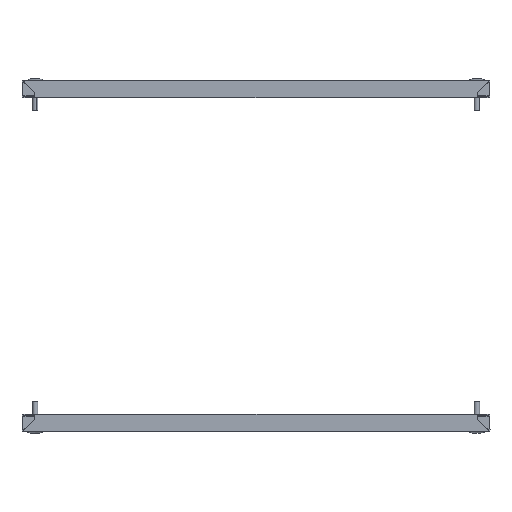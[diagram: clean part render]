
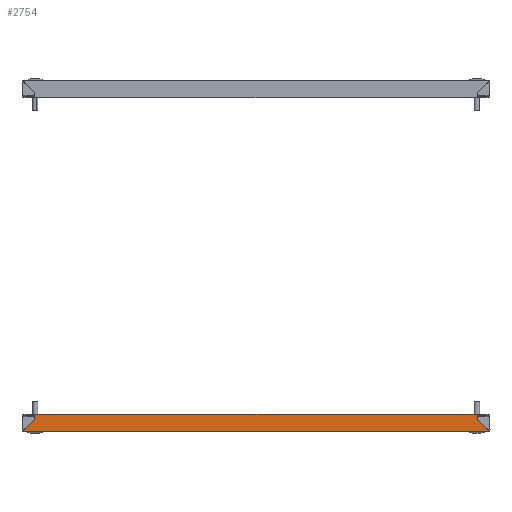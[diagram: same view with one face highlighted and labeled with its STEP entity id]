
A CAD part, front view. The second image highlights one B-rep face of the part: STEP entity #2754.
In plain terms, the highlighted planar face has unit normal (0, -1, 0).
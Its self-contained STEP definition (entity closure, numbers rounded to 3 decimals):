
#30 = CARTESIAN_POINT ( 'NONE',  ( 247.121, -50., -0.099 ) ) ;
#52 = ORIENTED_EDGE ( 'NONE', *, *, #4948, .T. ) ;
#92 = ORIENTED_EDGE ( 'NONE', *, *, #1702, .T. ) ;
#131 = CARTESIAN_POINT ( 'NONE',  ( 247.223, -50., -1.5 ) ) ;
#340 = CARTESIAN_POINT ( 'NONE',  ( -247.223, -50., -1.5 ) ) ;
#376 = DIRECTION ( 'NONE',  ( 0., 0., 1. ) ) ;
#724 = CARTESIAN_POINT ( 'NONE',  ( -247.204, -50., -1.149 ) ) ;
#1027 = ORIENTED_EDGE ( 'NONE', *, *, #7142, .T. ) ;
#1066 = DIRECTION ( 'NONE',  ( 0.707, 0., -0.707 ) ) ;
#1090 = LINE ( 'NONE', #1135, #1475 ) ;
#1135 = CARTESIAN_POINT ( 'NONE',  ( 236., -50., 11.646 ) ) ;
#1252 = DIRECTION ( 'NONE',  ( 0., 1., 0. ) ) ;
#1330 = CARTESIAN_POINT ( 'NONE',  ( -247.084, -50., 0.251 ) ) ;
#1354 = LINE ( 'NONE', #8286, #8712 ) ;
#1378 = CARTESIAN_POINT ( 'NONE',  ( -247.046, -50., 0.6 ) ) ;
#1435 = CARTESIAN_POINT ( 'NONE',  ( 247.181, -50., -0.799 ) ) ;
#1475 = VECTOR ( 'NONE', #376, 1000. ) ;
#1684 = B_SPLINE_CURVE_WITH_KNOTS ( 'NONE', 3,
 ( #3616, #8364, #30, #1435, #5472, #131 ),
 .UNSPECIFIED., .F., .F.,
 ( 4, 2, 4 ),
 ( 0.005, 0.006, 0.008 ),
 .UNSPECIFIED. ) ;
#1702 = EDGE_CURVE ( 'NONE', #9068, #6841, #6374, .T. ) ;
#2076 = CARTESIAN_POINT ( 'NONE',  ( 247.223, -50., -1.5 ) ) ;
#2103 = CARTESIAN_POINT ( 'NONE',  ( 0., -50., 0. ) ) ;
#2754 = ADVANCED_FACE ( 'NONE', ( #5085 ), #2920, .F. ) ;
#2920 = PLANE ( 'NONE',  #4655 ) ;
#3516 = CARTESIAN_POINT ( 'NONE',  ( 236., -50., 11.646 ) ) ;
#3528 = CARTESIAN_POINT ( 'NONE',  ( -236., -50., 17.5 ) ) ;
#3544 = CARTESIAN_POINT ( 'NONE',  ( 0., -50., -1.5 ) ) ;
#3553 = B_SPLINE_CURVE_WITH_KNOTS ( 'NONE', 3,
 ( #8960, #1330, #9113, #4562, #724, #9159 ),
 .UNSPECIFIED., .F., .F.,
 ( 4, 2, 4 ),
 ( 0.005, 0.006, 0.008 ),
 .UNSPECIFIED. ) ;
#3616 = CARTESIAN_POINT ( 'NONE',  ( 247.046, -50., 0.6 ) ) ;
#4219 = VERTEX_POINT ( 'NONE', #8419 ) ;
#4254 = DIRECTION ( 'NONE',  ( 1., 0., 0. ) ) ;
#4291 = CARTESIAN_POINT ( 'NONE',  ( -102.536, -50., 350.182 ) ) ;
#4336 = VECTOR ( 'NONE', #7929, 1000. ) ;
#4344 = LINE ( 'NONE', #3544, #7243 ) ;
#4471 = LINE ( 'NONE', #8866, #7261 ) ;
#4562 = CARTESIAN_POINT ( 'NONE',  ( -247.181, -50., -0.799 ) ) ;
#4655 = AXIS2_PLACEMENT_3D ( 'NONE', #2103, #1252, #5935 ) ;
#4948 = EDGE_CURVE ( 'NONE', #8273, #9815, #1090, .T. ) ;
#5085 = FACE_OUTER_BOUND ( 'NONE', #9209, .T. ) ;
#5170 = VERTEX_POINT ( 'NONE', #1378 ) ;
#5203 = EDGE_CURVE ( 'NONE', #5170, #8295, #3553, .T. ) ;
#5228 = ORIENTED_EDGE ( 'NONE', *, *, #6552, .F. ) ;
#5472 = CARTESIAN_POINT ( 'NONE',  ( 247.204, -50., -1.149 ) ) ;
#5918 = VERTEX_POINT ( 'NONE', #2076 ) ;
#5935 = DIRECTION ( 'NONE',  ( 0., 0., 1. ) ) ;
#6271 = CARTESIAN_POINT ( 'NONE',  ( 236., -50., 17.5 ) ) ;
#6279 = CARTESIAN_POINT ( 'NONE',  ( -236., -50., 11.646 ) ) ;
#6374 = LINE ( 'NONE', #6279, #4336 ) ;
#6519 = CARTESIAN_POINT ( 'NONE',  ( -236., -50., 11.646 ) ) ;
#6552 = EDGE_CURVE ( 'NONE', #5170, #6841, #1354, .T. ) ;
#6778 = DIRECTION ( 'NONE',  ( 0.707, 0., 0.707 ) ) ;
#6841 = VERTEX_POINT ( 'NONE', #6519 ) ;
#7142 = EDGE_CURVE ( 'NONE', #9815, #9068, #4471, .T. ) ;
#7153 = EDGE_CURVE ( 'NONE', #4219, #5918, #1684, .T. ) ;
#7165 = ORIENTED_EDGE ( 'NONE', *, *, #7153, .F. ) ;
#7243 = VECTOR ( 'NONE', #4254, 1000. ) ;
#7261 = VECTOR ( 'NONE', #7518, 1000. ) ;
#7518 = DIRECTION ( 'NONE',  ( -1., 0., 0. ) ) ;
#7602 = ORIENTED_EDGE ( 'NONE', *, *, #7762, .F. ) ;
#7762 = EDGE_CURVE ( 'NONE', #8273, #4219, #8139, .T. ) ;
#7929 = DIRECTION ( 'NONE',  ( 0., 0., -1. ) ) ;
#8139 = LINE ( 'NONE', #4291, #9355 ) ;
#8273 = VERTEX_POINT ( 'NONE', #3516 ) ;
#8286 = CARTESIAN_POINT ( 'NONE',  ( -247.046, -50., 0.6 ) ) ;
#8295 = VERTEX_POINT ( 'NONE', #340 ) ;
#8364 = CARTESIAN_POINT ( 'NONE',  ( 247.084, -50., 0.251 ) ) ;
#8419 = CARTESIAN_POINT ( 'NONE',  ( 247.046, -50., 0.6 ) ) ;
#8712 = VECTOR ( 'NONE', #6778, 1000. ) ;
#8756 = EDGE_CURVE ( 'NONE', #8295, #5918, #4344, .T. ) ;
#8843 = ORIENTED_EDGE ( 'NONE', *, *, #5203, .T. ) ;
#8866 = CARTESIAN_POINT ( 'NONE',  ( 0., -50., 17.5 ) ) ;
#8960 = CARTESIAN_POINT ( 'NONE',  ( -247.046, -50., 0.6 ) ) ;
#9041 = ORIENTED_EDGE ( 'NONE', *, *, #8756, .T. ) ;
#9068 = VERTEX_POINT ( 'NONE', #3528 ) ;
#9113 = CARTESIAN_POINT ( 'NONE',  ( -247.121, -50., -0.099 ) ) ;
#9159 = CARTESIAN_POINT ( 'NONE',  ( -247.223, -50., -1.5 ) ) ;
#9209 = EDGE_LOOP ( 'NONE', ( #7602, #52, #1027, #92, #5228, #8843, #9041, #7165 ) ) ;
#9355 = VECTOR ( 'NONE', #1066, 1000. ) ;
#9815 = VERTEX_POINT ( 'NONE', #6271 ) ;
